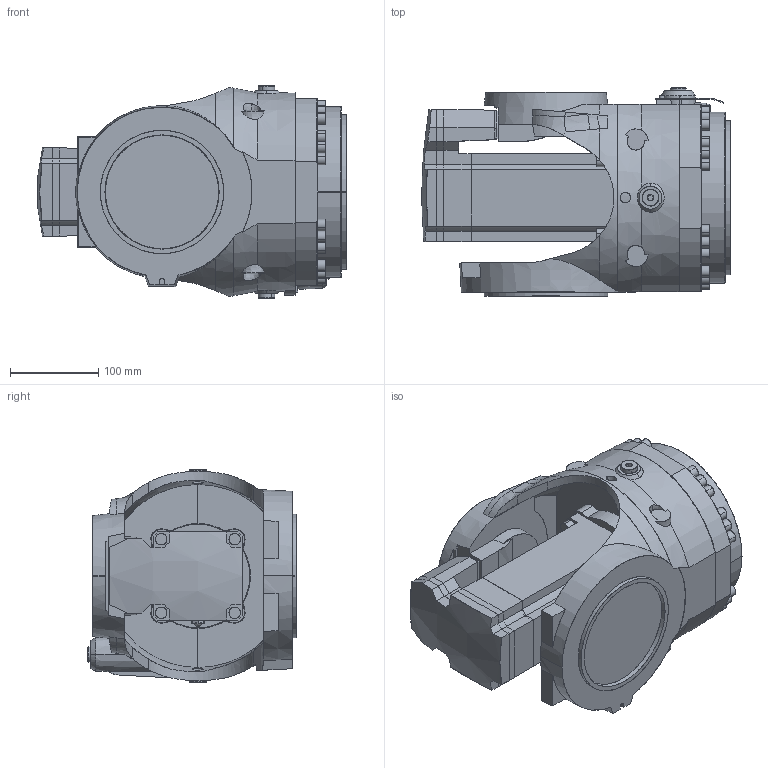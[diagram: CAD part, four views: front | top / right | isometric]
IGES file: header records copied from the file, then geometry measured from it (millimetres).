
Start section: SolidWorks IGES file using analytic representation for surfaces
Global section: file name: B:\DM\Robotics\SEROP_PROJ\Product Development\DevelopmentProjects\Manipulator_Modularity\04. Product Design\06. CAD\Amanda\7710 Lightweight models\IRB7710_310kg-350_OC_00_SW_J\IRB77X0_All-350_OC_00_LINK05_CAD.IGS; native system: SolidWorks 2022; preprocessor: SolidWorks 2022; author: SEAMSTO1; date: 240118.113017; units: millimetre
Bounding box: 350.39 x 236.5 x 241 mm (x, y, z)
Surface area: 496643.6 mm2 (no closed solid volume)
Topology: 0 solids, 0 shells, 734 faces, 11640 edges, 11634 vertices
Faces by surface type: bspline 429, revolution 305
